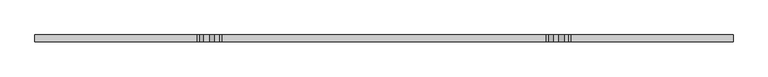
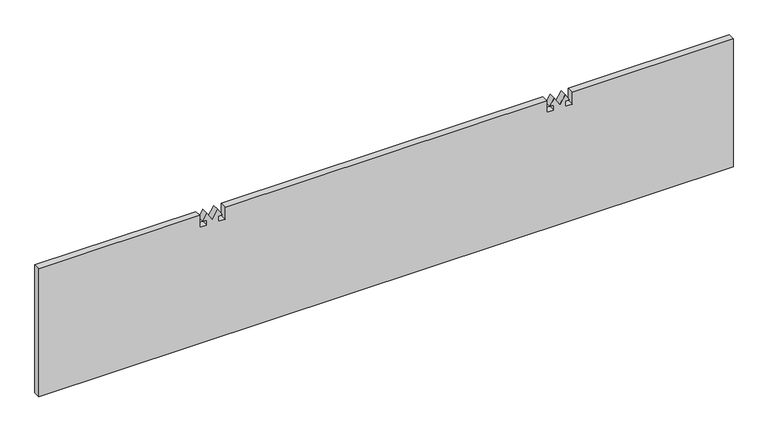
"""IFC4 building model written with IfcOpenShell, lengths in millimetres: proxy geometry, instalación_stratus 4.3dm."""

from ifc_helpers import new_model, si_unit, frame, origin, place, context, project, spatial, polyline, outline, extrude, source, transform, mapped, element, save


def generic_models_4686592c(model_context):
    return source(origin(), model_context, "Body", "SweptSolid", [
        extrude(outline(polyline([(-42.5638653, 291.811158), (-42.5638653, 279.553481), (-20.65, 279.553481), (-20.65, 0.0), (-255.6, 0.0), (-255.6, 1206.5), (-20.65, 1206.5), (-20.65, 926.946519), (-42.5638653, 926.946519), (-42.5638653, 914.688842), (-33.2622966, 914.688842), (-33.2622966, 922.0592541), (-20.65, 914.42236), (-36.4174225, 904.875), (-20.65, 895.32764), (-33.2622966, 887.6907459), (-33.2622966, 895.061158), (-42.5638653, 895.061158), (-42.5638653, 882.803481), (-20.65, 882.803481), (-20.65, 323.696519), (-42.5638653, 323.696519), (-42.5638653, 311.438842), (-33.2622966, 311.438842), (-33.2622966, 318.8092541), (-20.65, 311.17236), (-36.4174225, 301.625), (-20.65, 292.07764), (-33.2622966, 284.4407459), (-33.2622966, 291.811158), (-42.5638653, 291.811158)])), frame((0.0, 446.9910804, 0.0), z_axis=(0.0, 1.0, 0.0), x_axis=(0.0, 0.0, 1.0)), (0.0, 0.0, 1.0), 12.0),
    ])


if __name__ == "__main__":
    model = new_model("IFC4")
    model_context = context("Model", 3, world=origin())
    ifc_project = project(units=[si_unit("LENGTHUNIT", "METRE", prefix="MILLI")], contexts=[model_context])
    site = spatial("IfcSite", under=ifc_project)
    building = spatial("IfcBuilding", under=site)
    placement = place(None, origin())
    generic_models_shape = generic_models_4686592c(model_context)
    element("IfcBuildingElementProxy", 1, Name="instalación_stratus 4.3dm", ObjectType="instalación_stratus 4.3dm", at=placement, inside=building, context=model_context, shape_type="MappedRepresentation", body=[
        mapped(generic_models_shape, transform((0.0, 0.0, 0.0), x_axis=(1.0, 0.0, 0.0), y_axis=(0.0, 1.0, 0.0), z_axis=(0.0, 0.0, 1.0))),
    ])
    save(model, "model.ifc")
